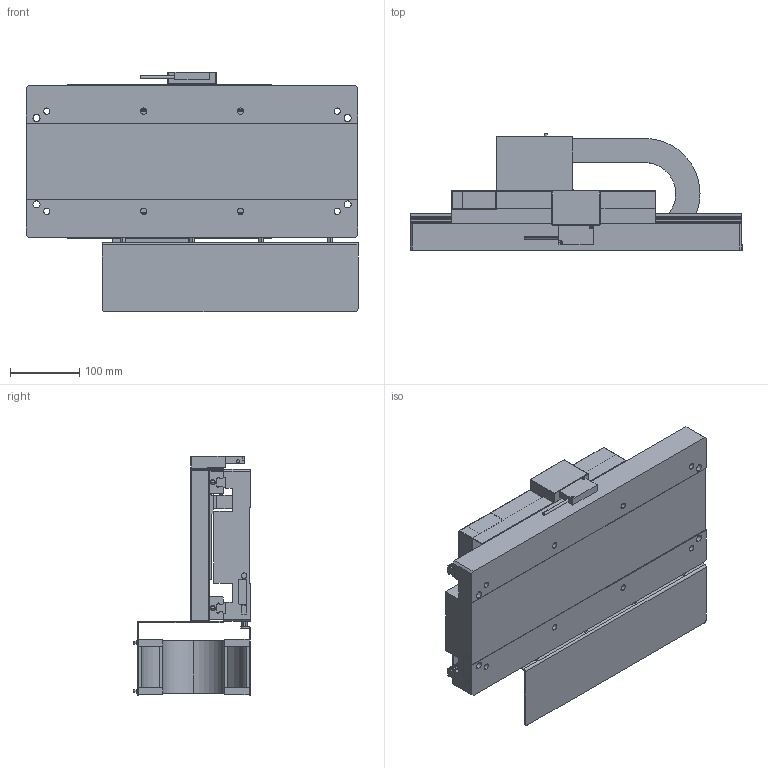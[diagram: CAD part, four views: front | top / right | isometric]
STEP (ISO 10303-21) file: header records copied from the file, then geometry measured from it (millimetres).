
FILE_DESCRIPTION (( 'STEP AP214' ), '1' );
FILE_NAME ('NST-A020##BPNA_#2.00_0.STEP', '2021-05-18T01:39:00', ( '' ), ( '' ), 'SwSTEP 2.0', 'SolidWorks 2018', '' );
FILE_SCHEMA (( 'AUTOMOTIVE_DESIGN' ));
Length unit declared in the file: millimetre
Products named in the file (4): 17YK0790_Org; AUA03060; NST-A020##BPNA_#2.00_0; AUA03000
Assembly tree (3 placements, depth 2):
  NST-A020##BPNA_#2.00_0
    AUA03060
    AUA03000
    17YK0790_Org
Bounding box: 480.2 x 169 x 347 mm (x, y, z)
Volume: 6881508.6 mm3; surface area: 1030490.6 mm2
Topology: 32 solids, 32 shells, 996 faces, 2579 edges, 1659 vertices
Faces by surface type: plane 602, cylinder 346, cone 40, sphere 8
Entity records: 40570 total; most frequent: DIRECTION 5229, CARTESIAN_POINT 5221, ORIENTED_EDGE 5050, EDGE_CURVE 2525, LINE 1821, VECTOR 1821, AXIS2_PLACEMENT_3D 1704, VERTEX_POINT 1651
